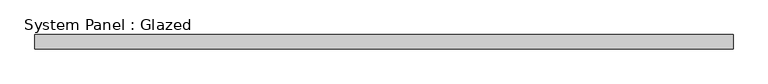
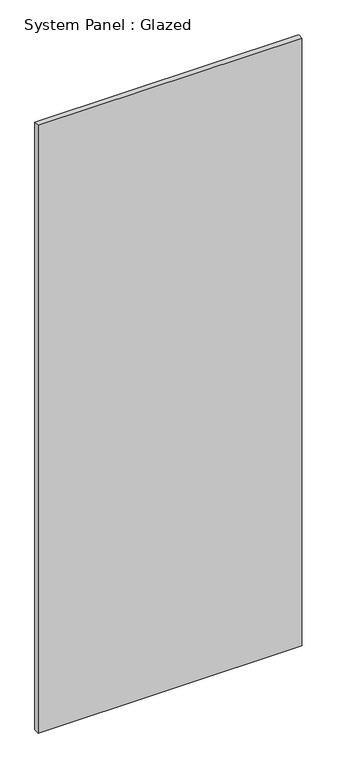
"""IFC4 building model written with IfcOpenShell, lengths in millimetres: plate geometry, System Panel : Glazed."""

from ifc_helpers import new_model, si_unit, origin, origin_with_axes, place, context, project, spatial, polyline, outline, extrude, source, transform, mapped, element, save


def system_panel_glazed_ee91e337(model_context):
    return source(origin(), model_context, "Body", "SweptSolid", [
        extrude(outline(polyline([(620.7125, -44.45), (-620.7125, -44.45), (-620.7125, -19.05), (620.7125, -19.05), (620.7125, -44.45)])), origin_with_axes(), (0.0, 0.0, 1.0), 3022.6),
    ])


if __name__ == "__main__":
    model = new_model("IFC4")
    model_context = context("Model", 3, world=origin())
    ifc_project = project(units=[si_unit("LENGTHUNIT", "METRE", prefix="MILLI")], contexts=[model_context])
    site = spatial("IfcSite", under=ifc_project)
    building = spatial("IfcBuilding", under=site)
    placement = place(None, origin())
    system_panel_glazed_shape = system_panel_glazed_ee91e337(model_context)
    element("IfcPlate", 1, ObjectType="System Panel : Glazed", at=placement, inside=building, context=model_context, shape_type="MappedRepresentation", body=[
        mapped(system_panel_glazed_shape, transform((0.0, 0.0, 0.0), x_axis=(1.0, 0.0, 0.0), y_axis=(0.0, 1.0, 0.0), z_axis=(0.0, 0.0, 1.0))),
    ])
    save(model, "model.ifc")
